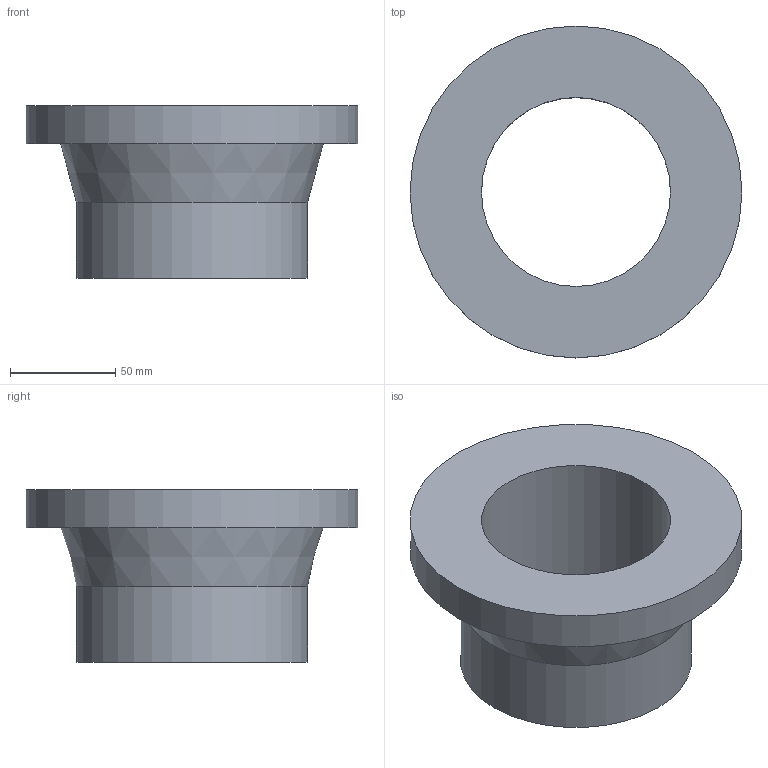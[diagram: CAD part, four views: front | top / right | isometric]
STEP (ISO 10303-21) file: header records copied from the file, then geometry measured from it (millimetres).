
FILE_DESCRIPTION (( 'STEP AP203' ), '1' );
FILE_NAME ('581135040.STEP', '2015-12-04T19:57:28', ( '' ), ( '' ), 'SwSTEP 2.0', 'SolidWorks 2015', '' );
FILE_SCHEMA (( 'CONFIG_CONTROL_DESIGN' ));
Length unit declared in the file: inch
Products named in the file (1): 581135040
Bounding box: 158 x 158 x 82 mm (x, y, z)
Volume: 477392.8 mm3; surface area: 78981.8 mm2
Topology: 1 solids, 1 shells, 7 faces, 11 edges, 7 vertices
Faces by surface type: plane 3, cylinder 3, cone 1
Full cylindrical faces by diameter (mm): 90 x1, 110 x1, 158 x1
Entity records: 227 total; most frequent: DIRECTION 30, CARTESIAN_POINT 22, AXIS2_PLACEMENT_3D 15, EDGE_LOOP 14, ORIENTED_EDGE 14, FACE_OUTER_BOUND 10, PERSON_AND_ORGANIZATION 8, EDGE_CURVE 7
